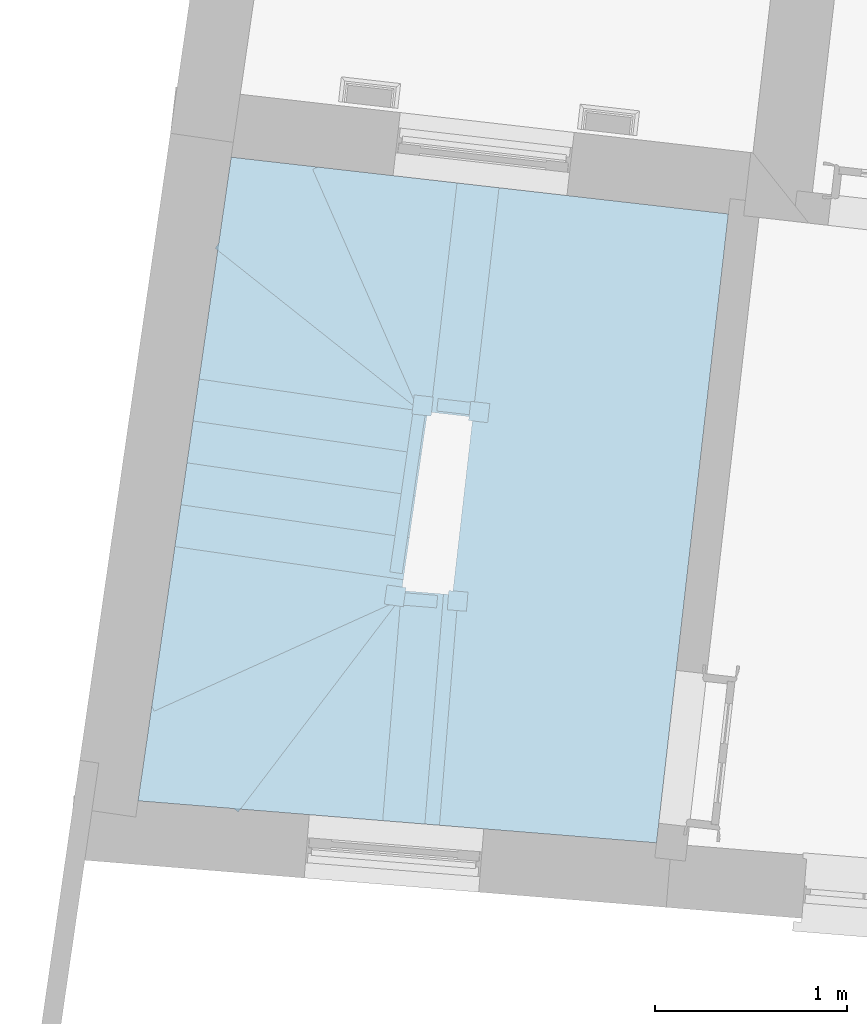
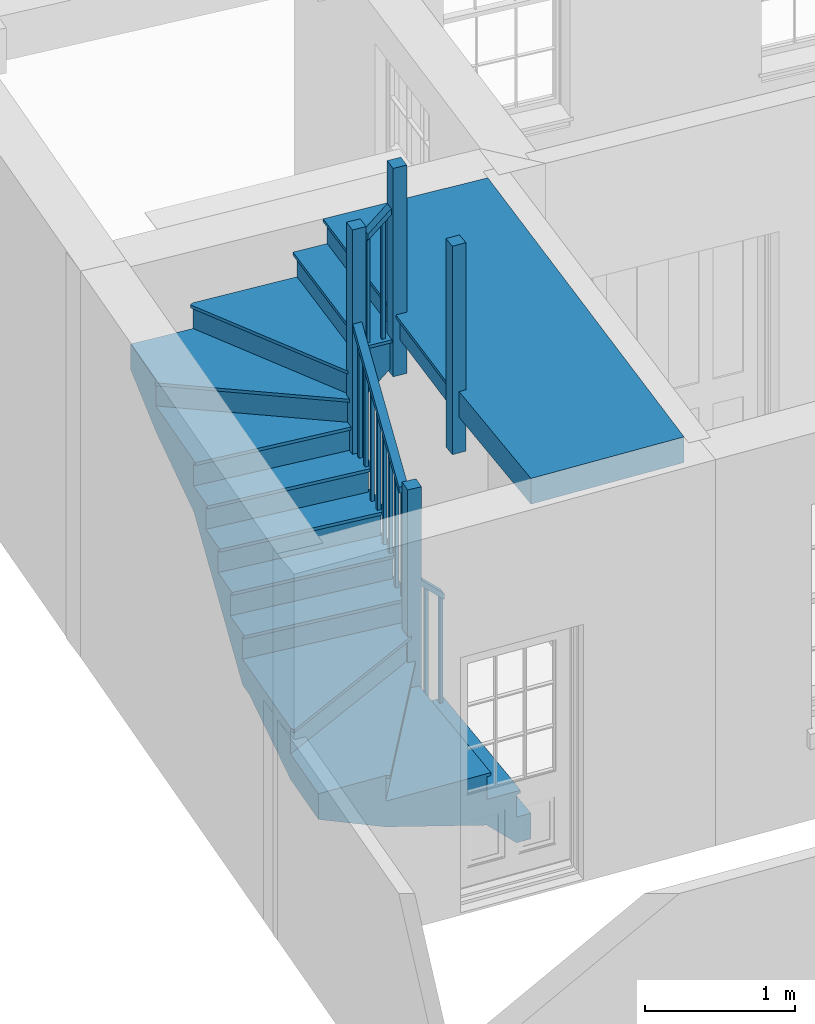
# One storey, part 8 of 8: 1 stair.
"""IFC4 building model written with IfcOpenShell, lengths in metres."""

from ifc_helpers import new_model, si_unit, frame, origin, origin_with_axes, place, context, subcontext, project, spatial, faceted_brep, element, save


model = new_model("IFC4")

# Units and contexts
model_context = context("Model", 3, world=origin_with_axes())
body_context = subcontext(model_context, "Body", "Model", "MODEL_VIEW")
ifc_project = project(units=[si_unit("PLANEANGLEUNIT", "RADIAN"), si_unit("MASSUNIT", "GRAM", prefix="KILO"), si_unit("FORCEUNIT", "NEWTON", prefix="KILO"), si_unit("LENGTHUNIT", "METRE"), si_unit("AREAUNIT", "SQUARE_METRE"), si_unit("VOLUMEUNIT", "CUBIC_METRE")], contexts=[model_context, model_context])

# Sites, building, storey
site_1_placement = place(None, origin_with_axes())
site_1 = spatial("IfcSite", under=ifc_project, at=site_1_placement, Name="Tamar")
site_2_placement = place(site_1_placement, origin_with_axes())
site_2 = spatial("IfcSite", under=site_1, at=site_2_placement, Name="Site plot-31", CompositionType="ELEMENT")
building_placement = place(None, origin_with_axes())
building = spatial("IfcBuilding", under=site_2, at=building_placement, Name="Building plot-31", CompositionType="ELEMENT")
storey_placement = place(None, frame((0.0, 0.0, 25.5), z_axis=(0.0, 0.0, 1.0), x_axis=(1.0, 0.0, 0.0)))
storey = spatial("IfcBuildingStorey", under=building, at=storey_placement, Name="plot-31 0", CompositionType="ELEMENT", Elevation=25.5)

# Stair
stair_placement = place(None, origin())
element("IfcStair", 1, at=stair_placement, inside=storey, Name="Stair", PredefinedType="NOTDEFINED", context=body_context, shape_type="Brep", body=[
    faceted_brep([(294.32439, 259.979623, 28.44), (294.457181, 261.142063, 28.44), (294.238602, 261.167032, 28.44), (294.105811, 260.004593, 28.44), (294.105811, 260.004593, 28.02), (294.238602, 261.167032, 28.02), (294.457181, 261.142063, 28.23), (294.32439, 259.979623, 28.23)], [[[0, 1, 2, 3]], [[4, 5, 6, 7]], [[7, 6, 1, 0]], [[1, 6, 5, 2]], [[5, 4, 3, 2]], [[3, 4, 7, 0]]]),
    faceted_brep([(294.238602, 261.167032, 28.415), (294.208796, 261.170437, 28.415), (294.238602, 261.167032, 28.44), (294.486987, 261.138658, 28.415), (294.457181, 261.142063, 28.415), (294.457181, 261.142063, 28.44), (294.208796, 261.170437, 28.44), (294.486987, 261.138658, 28.44), (294.0726, 259.978191, 28.44), (294.105811, 260.004593, 28.44), (294.105811, 260.004593, 28.415), (294.0726, 259.978191, 28.415), (294.350791, 259.946412, 28.44), (294.32439, 259.979623, 28.44), (294.32439, 259.979623, 28.415), (294.350791, 259.946412, 28.415)], [[[0, 1, 2]], [[3, 4, 5]], [[1, 6, 2]], [[7, 3, 5]], [[2, 6, 8, 9]], [[0, 2, 9, 10]], [[1, 0, 10, 11]], [[6, 1, 11, 8]], [[9, 8, 12, 13]], [[10, 9, 13, 14]], [[11, 10, 14, 15]], [[8, 11, 15, 12]], [[13, 12, 7, 5]], [[14, 13, 5, 4]], [[15, 14, 4, 3]], [[12, 15, 3, 7]]]),
    faceted_brep([(294.105811, 260.004593, 29.34), (294.13065, 260.001755, 29.34), (294.133487, 260.026594, 29.34), (294.108649, 260.029431, 29.34), (294.108649, 260.029431, 28.44), (294.133487, 260.026594, 28.44), (294.13065, 260.001755, 28.44), (294.105811, 260.004593, 28.44)], [[[0, 1, 2, 3]], [[4, 5, 6, 7]], [[7, 6, 1, 0]], [[6, 5, 2, 1]], [[5, 4, 3, 2]], [[4, 7, 0, 3]]]),
    faceted_brep([(294.215101, 259.992108, 29.445), (294.239939, 259.989271, 29.445), (294.242776, 260.014109, 29.445), (294.217938, 260.016946, 29.445), (294.217938, 260.016946, 28.44), (294.242776, 260.014109, 28.44), (294.239939, 259.989271, 28.44), (294.215101, 259.992108, 28.44)], [[[0, 1, 2, 3]], [[4, 5, 6, 7]], [[7, 6, 1, 0]], [[6, 5, 2, 1]], [[5, 4, 3, 2]], [[4, 7, 0, 3]]]),
    faceted_brep([(294.110919, 260.049302, 29.29), (294.103541, 259.984722, 29.29), (294.103541, 259.984722, 29.34), (294.110919, 260.049302, 29.34), (294.32212, 259.959753, 29.5), (294.329497, 260.024333, 29.5), (294.329497, 260.024333, 29.55), (294.32212, 259.959753, 29.55)], [[[0, 1, 2, 3]], [[4, 5, 6, 7]], [[0, 5, 4, 1]], [[3, 2, 7, 6]], [[0, 3, 6, 5]], [[2, 1, 4, 7]]]),
    faceted_brep([(294.105811, 260.004593, 28.23), (294.238602, 261.167032, 28.23), (294.163074, 261.17566, 28.23), (294.030283, 260.01322, 28.23), (294.030283, 260.01322, 28.02), (294.163074, 261.17566, 28.02), (294.238602, 261.167032, 28.02), (294.105811, 260.004593, 28.02)], [[[0, 1, 2, 3]], [[4, 5, 6, 7]], [[7, 6, 1, 0]], [[6, 5, 2, 1]], [[5, 4, 3, 2]], [[4, 7, 0, 3]]]),
    faceted_brep([(294.030283, 260.01322, 28.205), (294.026879, 259.983414, 28.205), (294.030283, 260.01322, 28.23), (294.102406, 259.974786, 28.205), (294.105811, 260.004593, 28.205), (294.105811, 260.004593, 28.23), (294.026879, 259.983414, 28.23), (294.102406, 259.974786, 28.23)], [[[0, 1, 2]], [[3, 4, 5]], [[1, 6, 2]], [[7, 3, 5]], [[2, 6, 7, 5]], [[0, 2, 5, 4]], [[1, 0, 4, 3]], [[6, 1, 3, 7]]]),
    faceted_brep([(293.974932, 259.969218, 29.43), (294.074286, 259.957869, 29.43), (294.085635, 260.057223, 29.43), (293.986281, 260.068572, 29.43), (293.986281, 260.068572, 28.23), (294.085635, 260.057223, 28.23), (294.074286, 259.957869, 28.23), (293.974932, 259.969218, 28.23)], [[[0, 1, 2, 3]], [[4, 5, 6, 7]], [[7, 6, 1, 0]], [[6, 5, 2, 1]], [[5, 4, 3, 2]], [[4, 7, 0, 3]]]),
    faceted_brep([(294.163074, 261.17566, 28.23), (293.486139, 261.25299, 28.23), (294.030283, 260.01322, 28.23), (294.030283, 260.01322, 27.81), (293.486139, 261.25299, 27.81), (294.163074, 261.17566, 28.02)], [[[0, 1, 2]], [[3, 4, 5]], [[0, 5, 4, 1]], [[4, 3, 2, 1]], [[2, 3, 5, 0]]]),
    faceted_brep([(293.486139, 261.25299, 28.205), (293.458669, 261.240933, 28.205), (293.486139, 261.25299, 28.23), (294.002813, 260.001163, 28.205), (294.030283, 260.01322, 28.205), (294.030283, 260.01322, 28.23), (293.458669, 261.240933, 28.23), (294.002813, 260.001163, 28.23)], [[[0, 1, 2]], [[3, 4, 5]], [[1, 6, 2]], [[7, 3, 5]], [[2, 6, 7, 5]], [[0, 2, 5, 4]], [[1, 0, 4, 3]], [[6, 1, 3, 7]]]),
    faceted_brep([(293.486139, 261.25299, 28.02), (293.034849, 261.304543, 28.02), (292.969841, 260.854994, 28.02), (294.030283, 260.01322, 28.02), (294.030283, 260.01322, 27.6), (292.969841, 260.854994, 27.6), (293.034849, 261.304543, 27.81), (293.486139, 261.25299, 27.81)], [[[0, 1, 2, 3]], [[4, 5, 6, 7]], [[7, 6, 1, 0]], [[1, 6, 5, 2]], [[5, 4, 3, 2]], [[3, 4, 7, 0]]]),
    faceted_brep([(292.951189, 260.831497, 27.995), (292.951189, 260.831497, 28.02), (292.969841, 260.854994, 27.995), (294.011632, 259.989723, 28.02), (294.011632, 259.989723, 27.995), (294.030283, 260.01322, 27.995), (292.969841, 260.854994, 28.02), (294.030283, 260.01322, 28.02)], [[[0, 1, 2]], [[3, 4, 5]], [[2, 1, 6]], [[3, 5, 7]], [[6, 1, 3, 7]], [[2, 6, 7, 5]], [[0, 2, 5, 4]], [[1, 0, 4, 3]]]),
    faceted_brep([(292.969841, 260.854994, 27.81), (292.872328, 260.18067, 27.81), (294.030283, 260.01322, 27.81), (294.030283, 260.01322, 27.39), (292.872328, 260.18067, 27.39), (292.969841, 260.854994, 27.6)], [[[0, 1, 2]], [[3, 4, 5]], [[0, 5, 4, 1]], [[4, 3, 2, 1]], [[2, 3, 5, 0]]]),
    faceted_brep([(292.868034, 260.150979, 27.785), (292.868034, 260.150979, 27.81), (292.872328, 260.18067, 27.785), (294.02599, 259.983529, 27.81), (294.02599, 259.983529, 27.785), (294.030283, 260.01322, 27.785), (292.872328, 260.18067, 27.81), (294.030283, 260.01322, 27.81)], [[[0, 1, 2]], [[3, 4, 5]], [[2, 1, 6]], [[3, 5, 7]], [[6, 1, 3, 7]], [[2, 6, 7, 5]], [[0, 2, 5, 4]], [[1, 0, 4, 3]]]),
    faceted_brep([(293.974932, 259.969218, 28.23), (294.074286, 259.957869, 28.23), (294.085635, 260.057223, 28.23), (293.986281, 260.068572, 28.23), (293.986281, 260.068572, 27.31), (294.085635, 260.057223, 27.31), (294.074286, 259.957869, 27.31), (293.974932, 259.969218, 27.31)], [[[0, 1, 2, 3]], [[4, 5, 6, 7]], [[7, 6, 1, 0]], [[6, 5, 2, 1]], [[5, 4, 3, 2]], [[4, 7, 0, 3]]]),
    faceted_brep([(294.030283, 260.01322, 27.6), (292.872328, 260.18067, 27.6), (292.840842, 259.962935, 27.6), (293.998797, 259.795485, 27.6), (293.998797, 259.795485, 27.18), (292.840842, 259.962935, 27.18), (292.872328, 260.18067, 27.39), (294.030283, 260.01322, 27.39)], [[[0, 1, 2, 3]], [[4, 5, 6, 7]], [[7, 6, 1, 0]], [[1, 6, 5, 2]], [[5, 4, 3, 2]], [[3, 4, 7, 0]]]),
    faceted_brep([(292.836548, 259.933244, 27.575), (292.836548, 259.933244, 27.6), (292.840842, 259.962935, 27.575), (292.876622, 260.210361, 27.6), (292.876622, 260.210361, 27.575), (292.872328, 260.18067, 27.575), (292.840842, 259.962935, 27.6), (292.872328, 260.18067, 27.6), (294.024195, 259.761501, 27.6), (293.998797, 259.795485, 27.6), (293.998797, 259.795485, 27.575), (294.024195, 259.761501, 27.575), (294.064268, 260.038618, 27.6), (294.030283, 260.01322, 27.6), (294.030283, 260.01322, 27.575), (294.064268, 260.038618, 27.575)], [[[0, 1, 2]], [[3, 4, 5]], [[2, 1, 6]], [[3, 5, 7]], [[6, 1, 8, 9]], [[2, 6, 9, 10]], [[0, 2, 10, 11]], [[1, 0, 11, 8]], [[9, 8, 12, 13]], [[10, 9, 13, 14]], [[11, 10, 14, 15]], [[8, 11, 15, 12]], [[13, 12, 3, 7]], [[14, 13, 7, 5]], [[15, 14, 5, 4]], [[12, 15, 4, 3]]]),
    faceted_brep([(293.998797, 259.795485, 28.5), (294.002375, 259.820228, 28.5), (293.977633, 259.823806, 28.5), (293.974055, 259.799063, 28.5), (293.974055, 259.799063, 27.6), (293.977633, 259.823806, 27.6), (294.002375, 259.820228, 27.6), (293.998797, 259.795485, 27.6)], [[[0, 1, 2, 3]], [[4, 5, 6, 7]], [[7, 6, 1, 0]], [[6, 5, 2, 1]], [[5, 4, 3, 2]], [[4, 7, 0, 3]]]),
    faceted_brep([(294.01454, 259.904353, 28.605), (294.018118, 259.929095, 28.605), (293.993376, 259.932673, 28.605), (293.989798, 259.907931, 28.605), (293.989798, 259.907931, 27.6), (293.993376, 259.932673, 27.6), (294.018118, 259.929095, 27.6), (294.01454, 259.904353, 27.6)], [[[0, 1, 2, 3]], [[4, 5, 6, 7]], [[7, 6, 1, 0]], [[6, 5, 2, 1]], [[5, 4, 3, 2]], [[4, 7, 0, 3]]]),
    faceted_brep([(293.95426, 259.801926, 28.45), (294.018591, 259.792623, 28.45), (294.018591, 259.792623, 28.5), (293.95426, 259.801926, 28.5), (294.050078, 260.010358, 28.66), (293.985747, 260.019661, 28.66), (293.985747, 260.019661, 28.71), (294.050078, 260.010358, 28.71)], [[[0, 1, 2, 3]], [[4, 5, 6, 7]], [[0, 5, 4, 1]], [[3, 2, 7, 6]], [[0, 3, 6, 5]], [[2, 1, 4, 7]]]),
    faceted_brep([(293.998797, 259.795485, 27.39), (292.840842, 259.962935, 27.39), (292.809356, 259.745199, 27.39), (293.967311, 259.57775, 27.39), (293.967311, 259.57775, 26.97), (292.809356, 259.745199, 26.97), (292.840842, 259.962935, 27.18), (293.998797, 259.795485, 27.18)], [[[0, 1, 2, 3]], [[4, 5, 6, 7]], [[7, 6, 1, 0]], [[1, 6, 5, 2]], [[5, 4, 3, 2]], [[3, 4, 7, 0]]]),
    faceted_brep([(292.805062, 259.715508, 27.365), (292.805062, 259.715508, 27.39), (292.809356, 259.745199, 27.365), (292.845135, 259.992626, 27.39), (292.845135, 259.992626, 27.365), (292.840842, 259.962935, 27.365), (292.809356, 259.745199, 27.39), (292.840842, 259.962935, 27.39), (293.992709, 259.543765, 27.39), (293.967311, 259.57775, 27.39), (293.967311, 259.57775, 27.365), (293.992709, 259.543765, 27.365), (294.032782, 259.820883, 27.39), (293.998797, 259.795485, 27.39), (293.998797, 259.795485, 27.365), (294.032782, 259.820883, 27.365)], [[[0, 1, 2]], [[3, 4, 5]], [[2, 1, 6]], [[3, 5, 7]], [[6, 1, 8, 9]], [[2, 6, 9, 10]], [[0, 2, 10, 11]], [[1, 0, 11, 8]], [[9, 8, 12, 13]], [[10, 9, 13, 14]], [[11, 10, 14, 15]], [[8, 11, 15, 12]], [[13, 12, 3, 7]], [[14, 13, 7, 5]], [[15, 14, 5, 4]], [[12, 15, 4, 3]]]),
    faceted_brep([(293.967311, 259.57775, 28.29), (293.970889, 259.602493, 28.29), (293.946146, 259.606071, 28.29), (293.942568, 259.581328, 28.29), (293.942568, 259.581328, 27.39), (293.946146, 259.606071, 27.39), (293.970889, 259.602493, 27.39), (293.967311, 259.57775, 27.39)], [[[0, 1, 2, 3]], [[4, 5, 6, 7]], [[7, 6, 1, 0]], [[6, 5, 2, 1]], [[5, 4, 3, 2]], [[4, 7, 0, 3]]]),
    faceted_brep([(293.983054, 259.686618, 28.395), (293.986632, 259.71136, 28.395), (293.961889, 259.714938, 28.395), (293.958311, 259.690196, 28.395), (293.958311, 259.690196, 27.39), (293.961889, 259.714938, 27.39), (293.986632, 259.71136, 27.39), (293.983054, 259.686618, 27.39)], [[[0, 1, 2, 3]], [[4, 5, 6, 7]], [[7, 6, 1, 0]], [[6, 5, 2, 1]], [[5, 4, 3, 2]], [[4, 7, 0, 3]]]),
    faceted_brep([(293.922774, 259.58419, 28.24), (293.987105, 259.574888, 28.24), (293.987105, 259.574888, 28.29), (293.922774, 259.58419, 28.29), (294.018591, 259.792623, 28.45), (293.95426, 259.801926, 28.45), (293.95426, 259.801926, 28.5), (294.018591, 259.792623, 28.5)], [[[0, 1, 2, 3]], [[4, 5, 6, 7]], [[0, 5, 4, 1]], [[3, 2, 7, 6]], [[0, 3, 6, 5]], [[2, 1, 4, 7]]]),
    faceted_brep([(293.967311, 259.57775, 27.18), (292.809356, 259.745199, 27.18), (292.777869, 259.527464, 27.18), (293.935825, 259.360015, 27.18), (293.935825, 259.360015, 26.76), (292.777869, 259.527464, 26.76), (292.809356, 259.745199, 26.97), (293.967311, 259.57775, 26.97)], [[[0, 1, 2, 3]], [[4, 5, 6, 7]], [[7, 6, 1, 0]], [[1, 6, 5, 2]], [[5, 4, 3, 2]], [[3, 4, 7, 0]]]),
    faceted_brep([(292.777869, 259.527464, 27.155), (292.773576, 259.497773, 27.155), (292.777869, 259.527464, 27.18), (292.813649, 259.774891, 27.155), (292.809356, 259.745199, 27.155), (292.809356, 259.745199, 27.18), (292.773576, 259.497773, 27.18), (292.813649, 259.774891, 27.18), (293.961222, 259.32603, 27.18), (293.935825, 259.360015, 27.18), (293.935825, 259.360015, 27.155), (293.961222, 259.32603, 27.155), (294.001296, 259.603148, 27.18), (293.967311, 259.57775, 27.18), (293.967311, 259.57775, 27.155), (294.001296, 259.603148, 27.155)], [[[0, 1, 2]], [[3, 4, 5]], [[1, 6, 2]], [[7, 3, 5]], [[2, 6, 8, 9]], [[0, 2, 9, 10]], [[1, 0, 10, 11]], [[6, 1, 11, 8]], [[9, 8, 12, 13]], [[10, 9, 13, 14]], [[11, 10, 14, 15]], [[8, 11, 15, 12]], [[13, 12, 7, 5]], [[14, 13, 5, 4]], [[15, 14, 4, 3]], [[12, 15, 3, 7]]]),
    faceted_brep([(293.935825, 259.360015, 28.08), (293.939403, 259.384757, 28.08), (293.91466, 259.388335, 28.08), (293.911082, 259.363593, 28.08), (293.911082, 259.363593, 27.18), (293.91466, 259.388335, 27.18), (293.939403, 259.384757, 27.18), (293.935825, 259.360015, 27.18)], [[[0, 1, 2, 3]], [[4, 5, 6, 7]], [[7, 6, 1, 0]], [[6, 5, 2, 1]], [[5, 4, 3, 2]], [[4, 7, 0, 3]]]),
    faceted_brep([(293.951568, 259.468882, 28.185), (293.955146, 259.493625, 28.185), (293.930403, 259.497203, 28.185), (293.926825, 259.47246, 28.185), (293.926825, 259.47246, 27.18), (293.930403, 259.497203, 27.18), (293.955146, 259.493625, 27.18), (293.951568, 259.468882, 27.18)], [[[0, 1, 2, 3]], [[4, 5, 6, 7]], [[7, 6, 1, 0]], [[6, 5, 2, 1]], [[5, 4, 3, 2]], [[4, 7, 0, 3]]]),
    faceted_brep([(293.891288, 259.366455, 28.03), (293.955619, 259.357152, 28.03), (293.955619, 259.357152, 28.08), (293.891288, 259.366455, 28.08), (293.987105, 259.574888, 28.24), (293.922774, 259.58419, 28.24), (293.922774, 259.58419, 28.29), (293.987105, 259.574888, 28.29)], [[[0, 1, 2, 3]], [[4, 5, 6, 7]], [[0, 5, 4, 1]], [[3, 2, 7, 6]], [[0, 3, 6, 5]], [[2, 1, 4, 7]]]),
    faceted_brep([(293.935825, 259.360015, 26.97), (292.777869, 259.527464, 26.97), (292.746383, 259.309729, 26.97), (293.904339, 259.14228, 26.97), (293.904339, 259.14228, 26.55), (292.746383, 259.309729, 26.55), (292.777869, 259.527464, 26.76), (293.935825, 259.360015, 26.76)], [[[0, 1, 2, 3]], [[4, 5, 6, 7]], [[7, 6, 1, 0]], [[1, 6, 5, 2]], [[5, 4, 3, 2]], [[3, 4, 7, 0]]]),
    faceted_brep([(292.746383, 259.309729, 26.945), (292.74209, 259.280038, 26.945), (292.746383, 259.309729, 26.97), (292.782163, 259.557155, 26.945), (292.777869, 259.527464, 26.945), (292.777869, 259.527464, 26.97), (292.74209, 259.280038, 26.97), (292.782163, 259.557155, 26.97), (293.929736, 259.108295, 26.97), (293.904339, 259.14228, 26.97), (293.904339, 259.14228, 26.945), (293.929736, 259.108295, 26.945), (293.96981, 259.385412, 26.97), (293.935825, 259.360015, 26.97), (293.935825, 259.360015, 26.945), (293.96981, 259.385412, 26.945)], [[[0, 1, 2]], [[3, 4, 5]], [[1, 6, 2]], [[7, 3, 5]], [[2, 6, 8, 9]], [[0, 2, 9, 10]], [[1, 0, 10, 11]], [[6, 1, 11, 8]], [[9, 8, 12, 13]], [[10, 9, 13, 14]], [[11, 10, 14, 15]], [[8, 11, 15, 12]], [[13, 12, 7, 5]], [[14, 13, 5, 4]], [[15, 14, 4, 3]], [[12, 15, 3, 7]]]),
    faceted_brep([(293.904339, 259.14228, 27.87), (293.907917, 259.167022, 27.87), (293.883174, 259.1706, 27.87), (293.879596, 259.145858, 27.87), (293.879596, 259.145858, 26.97), (293.883174, 259.1706, 26.97), (293.907917, 259.167022, 26.97), (293.904339, 259.14228, 26.97)], [[[0, 1, 2, 3]], [[4, 5, 6, 7]], [[7, 6, 1, 0]], [[6, 5, 2, 1]], [[5, 4, 3, 2]], [[4, 7, 0, 3]]]),
    faceted_brep([(293.920082, 259.251147, 27.975), (293.92366, 259.27589, 27.975), (293.898917, 259.279468, 27.975), (293.895339, 259.254725, 27.975), (293.895339, 259.254725, 26.97), (293.898917, 259.279468, 26.97), (293.92366, 259.27589, 26.97), (293.920082, 259.251147, 26.97)], [[[0, 1, 2, 3]], [[4, 5, 6, 7]], [[7, 6, 1, 0]], [[6, 5, 2, 1]], [[5, 4, 3, 2]], [[4, 7, 0, 3]]]),
    faceted_brep([(293.859802, 259.14872, 27.82), (293.924133, 259.139417, 27.82), (293.924133, 259.139417, 27.87), (293.859802, 259.14872, 27.87), (293.955619, 259.357152, 28.03), (293.891288, 259.366455, 28.03), (293.891288, 259.366455, 28.08), (293.955619, 259.357152, 28.08)], [[[0, 1, 2, 3]], [[4, 5, 6, 7]], [[0, 5, 4, 1]], [[3, 2, 7, 6]], [[0, 3, 6, 5]], [[2, 1, 4, 7]]]),
    faceted_brep([(293.904339, 259.14228, 26.76), (292.746383, 259.309729, 26.76), (292.729265, 259.191353, 26.76), (293.887221, 259.023904, 26.76), (293.887221, 259.023904, 26.55), (292.729265, 259.191353, 26.55), (292.746383, 259.309729, 26.55), (293.904339, 259.14228, 26.55)], [[[0, 1, 2, 3]], [[4, 5, 6, 7]], [[7, 6, 1, 0]], [[6, 5, 2, 1]], [[5, 4, 3, 2]], [[4, 7, 0, 3]]]),
    faceted_brep([(293.887221, 259.023904, 26.735), (293.916912, 259.01961, 26.735), (293.887221, 259.023904, 26.76), (293.93403, 259.137986, 26.735), (293.904339, 259.14228, 26.735), (293.904339, 259.14228, 26.76), (293.916912, 259.01961, 26.76), (293.93403, 259.137986, 26.76)], [[[0, 1, 2]], [[3, 4, 5]], [[1, 6, 2]], [[7, 3, 5]], [[2, 6, 7, 5]], [[0, 2, 5, 4]], [[1, 0, 4, 3]], [[6, 1, 3, 7]]]),
    faceted_brep([(293.92955, 258.967263, 27.96), (293.943862, 259.066233, 27.96), (293.844891, 259.080545, 27.96), (293.830579, 258.981575, 27.96), (293.830579, 258.981575, 26.76), (293.844891, 259.080545, 26.76), (293.943862, 259.066233, 26.76), (293.92955, 258.967263, 26.76)], [[[0, 1, 2, 3]], [[4, 5, 6, 7]], [[7, 6, 1, 0]], [[6, 5, 2, 1]], [[5, 4, 3, 2]], [[4, 7, 0, 3]]]),
    faceted_brep([(292.729265, 259.191353, 26.76), (292.622286, 258.451564, 26.76), (293.887221, 259.023904, 26.76), (293.887221, 259.023904, 26.34), (292.622286, 258.451564, 26.34), (292.729265, 259.191353, 26.55)], [[[0, 1, 2]], [[3, 4, 5]], [[0, 5, 4, 1]], [[4, 3, 2, 1]], [[2, 3, 5, 0]]]),
    faceted_brep([(292.622286, 258.451564, 26.735), (292.634653, 258.424232, 26.735), (292.622286, 258.451564, 26.76), (293.899587, 258.996572, 26.735), (293.887221, 259.023904, 26.735), (293.887221, 259.023904, 26.76), (292.634653, 258.424232, 26.76), (293.899587, 258.996572, 26.76)], [[[0, 1, 2]], [[3, 4, 5]], [[1, 6, 2]], [[7, 3, 5]], [[2, 6, 7, 5]], [[0, 2, 5, 4]], [[1, 0, 4, 3]], [[6, 1, 3, 7]]]),
    faceted_brep([(292.622286, 258.451564, 26.55), (292.550966, 257.958371, 26.55), (293.04766, 257.918114, 26.55), (293.887221, 259.023904, 26.55), (293.887221, 259.023904, 26.13), (293.04766, 257.918114, 26.13), (292.550966, 257.958371, 26.34), (292.622286, 258.451564, 26.34)], [[[0, 1, 2, 3]], [[4, 5, 6, 7]], [[7, 6, 1, 0]], [[1, 6, 5, 2]], [[5, 4, 3, 2]], [[3, 4, 7, 0]]]),
    faceted_brep([(293.04766, 257.918114, 26.525), (293.071554, 257.899973, 26.525), (293.04766, 257.918114, 26.55), (293.911114, 259.005763, 26.525), (293.887221, 259.023904, 26.525), (293.887221, 259.023904, 26.55), (293.071554, 257.899973, 26.55), (293.911114, 259.005763, 26.55)], [[[0, 1, 2]], [[3, 4, 5]], [[1, 6, 2]], [[7, 3, 5]], [[2, 6, 7, 5]], [[0, 2, 5, 4]], [[1, 0, 4, 3]], [[6, 1, 3, 7]]]),
    faceted_brep([(293.04766, 257.918114, 26.34), (293.792702, 257.857728, 26.34), (293.887221, 259.023904, 26.34), (293.887221, 259.023904, 25.92), (293.792702, 257.857728, 25.92), (293.04766, 257.918114, 26.13)], [[[0, 1, 2]], [[3, 4, 5]], [[0, 5, 4, 1]], [[4, 3, 2, 1]], [[2, 3, 5, 0]]]),
    faceted_brep([(293.822604, 257.855305, 26.315), (293.822604, 257.855305, 26.34), (293.792702, 257.857728, 26.315), (293.917122, 259.02148, 26.34), (293.917122, 259.02148, 26.315), (293.887221, 259.023904, 26.315), (293.792702, 257.857728, 26.34), (293.887221, 259.023904, 26.34)], [[[0, 1, 2]], [[3, 4, 5]], [[2, 1, 6]], [[3, 5, 7]], [[6, 1, 3, 7]], [[2, 6, 7, 5]], [[0, 2, 5, 4]], [[1, 0, 4, 3]]]),
    faceted_brep([(293.92955, 258.967263, 26.76), (293.943862, 259.066233, 26.76), (293.844891, 259.080545, 26.76), (293.830579, 258.981575, 26.76), (293.830579, 258.981575, 25.84), (293.844891, 259.080545, 25.84), (293.943862, 259.066233, 25.84), (293.92955, 258.967263, 25.84)], [[[0, 1, 2, 3]], [[4, 5, 6, 7]], [[7, 6, 1, 0]], [[6, 5, 2, 1]], [[5, 4, 3, 2]], [[4, 7, 0, 3]]]),
    faceted_brep([(293.887221, 259.023904, 26.13), (293.792702, 257.857728, 26.13), (294.011983, 257.839955, 26.13), (294.106501, 259.006131, 26.13), (294.106501, 259.006131, 25.71), (294.011983, 257.839955, 25.71), (293.792702, 257.857728, 25.92), (293.887221, 259.023904, 25.92)], [[[0, 1, 2, 3]], [[4, 5, 6, 7]], [[7, 6, 1, 0]], [[1, 6, 5, 2]], [[5, 4, 3, 2]], [[3, 4, 7, 0]]]),
    faceted_brep([(294.011983, 257.839955, 26.105), (294.041885, 257.837532, 26.105), (294.011983, 257.839955, 26.13), (293.7628, 257.860152, 26.105), (293.792702, 257.857728, 26.105), (293.792702, 257.857728, 26.13), (294.041885, 257.837532, 26.13), (293.7628, 257.860152, 26.13), (294.138827, 259.03361, 26.13), (294.106501, 259.006131, 26.13), (294.106501, 259.006131, 26.105), (294.138827, 259.03361, 26.105), (293.859742, 259.05623, 26.13), (293.887221, 259.023904, 26.13), (293.887221, 259.023904, 26.105), (293.859742, 259.05623, 26.105)], [[[0, 1, 2]], [[3, 4, 5]], [[1, 6, 2]], [[7, 3, 5]], [[2, 6, 8, 9]], [[0, 2, 9, 10]], [[1, 0, 10, 11]], [[6, 1, 11, 8]], [[9, 8, 12, 13]], [[10, 9, 13, 14]], [[11, 10, 14, 15]], [[8, 11, 15, 12]], [[13, 12, 7, 5]], [[14, 13, 5, 4]], [[15, 14, 4, 3]], [[12, 15, 3, 7]]]),
    faceted_brep([(294.106501, 259.006131, 27.03), (294.081583, 259.008151, 27.03), (294.079564, 258.983233, 27.03), (294.104482, 258.981213, 27.03), (294.104482, 258.981213, 26.13), (294.079564, 258.983233, 26.13), (294.081583, 259.008151, 26.13), (294.106501, 259.006131, 26.13)], [[[0, 1, 2, 3]], [[4, 5, 6, 7]], [[7, 6, 1, 0]], [[6, 5, 2, 1]], [[5, 4, 3, 2]], [[4, 7, 0, 3]]]),
    faceted_brep([(293.996861, 259.015018, 27.135), (293.971943, 259.017037, 27.135), (293.969923, 258.992119, 27.135), (293.994841, 258.990099, 27.135), (293.994841, 258.990099, 26.13), (293.969923, 258.992119, 26.13), (293.971943, 259.017037, 26.13), (293.996861, 259.015018, 26.13)], [[[0, 1, 2, 3]], [[4, 5, 6, 7]], [[7, 6, 1, 0]], [[6, 5, 2, 1]], [[5, 4, 3, 2]], [[4, 7, 0, 3]]]),
    faceted_brep([(294.102866, 258.961278, 26.98), (294.108117, 259.026066, 26.98), (294.108117, 259.026066, 27.03), (294.102866, 258.961278, 27.03), (293.888836, 259.043839, 27.19), (293.883585, 258.979051, 27.19), (293.883585, 258.979051, 27.24), (293.888836, 259.043839, 27.24)], [[[0, 1, 2, 3]], [[4, 5, 6, 7]], [[0, 5, 4, 1]], [[3, 2, 7, 6]], [[0, 3, 6, 5]], [[2, 1, 4, 7]]]),
    faceted_brep([(294.106501, 259.006131, 25.92), (294.011983, 257.839955, 25.92), (294.117686, 257.831388, 25.92), (294.212205, 258.997564, 25.92), (294.212205, 258.997564, 25.71), (294.117686, 257.831388, 25.71), (294.011983, 257.839955, 25.71), (294.106501, 259.006131, 25.71)], [[[0, 1, 2, 3]], [[4, 5, 6, 7]], [[7, 6, 1, 0]], [[6, 5, 2, 1]], [[5, 4, 3, 2]], [[4, 7, 0, 3]]]),
    faceted_brep([(294.212205, 258.997564, 25.895), (294.214628, 259.027466, 25.895), (294.212205, 258.997564, 25.92), (294.108925, 259.036033, 25.895), (294.106501, 259.006131, 25.895), (294.106501, 259.006131, 25.92), (294.214628, 259.027466, 25.92), (294.108925, 259.036033, 25.92)], [[[0, 1, 2]], [[3, 4, 5]], [[1, 6, 2]], [[7, 3, 5]], [[2, 6, 7, 5]], [[0, 2, 5, 4]], [[1, 0, 4, 3]], [[6, 1, 3, 7]]]),
    faceted_brep([(294.26608, 259.043361, 29.85), (294.166407, 259.05144, 29.85), (294.158329, 258.951767, 29.85), (294.258002, 258.943688, 29.85), (294.258002, 258.943688, 28.65), (294.158329, 258.951767, 28.65), (294.166407, 259.05144, 28.65), (294.26608, 259.043361, 28.65)], [[[0, 1, 2, 3]], [[4, 5, 6, 7]], [[7, 6, 1, 0]], [[6, 5, 2, 1]], [[5, 4, 3, 2]], [[4, 7, 0, 3]]]),
    faceted_brep([(294.212205, 258.997564, 28.65), (294.117686, 257.831388, 28.65), (295.246148, 257.739926, 28.65), (295.374645, 258.864773, 28.65), (295.374645, 258.864773, 28.44), (295.246148, 257.739926, 28.44), (294.117686, 257.831388, 28.44), (294.212205, 258.997564, 28.44)], [[[0, 1, 2, 3]], [[4, 5, 6, 7]], [[7, 6, 1, 0]], [[6, 5, 2, 1]], [[5, 4, 3, 2]], [[4, 7, 0, 3]]]),
    faceted_brep([(295.378049, 258.894579, 28.625), (295.378049, 258.894579, 28.65), (295.374645, 258.864773, 28.625), (294.215609, 259.02737, 28.65), (294.215609, 259.02737, 28.625), (294.212205, 258.997564, 28.625), (295.374645, 258.864773, 28.65), (294.212205, 258.997564, 28.65)], [[[0, 1, 2]], [[3, 4, 5]], [[2, 1, 6]], [[3, 5, 7]], [[6, 1, 3, 7]], [[2, 6, 7, 5]], [[0, 2, 5, 4]], [[1, 0, 4, 3]]]),
    faceted_brep([(294.26608, 259.043361, 28.65), (294.166407, 259.05144, 28.65), (294.158329, 258.951767, 28.65), (294.258002, 258.943688, 28.65), (294.258002, 258.943688, 28.15), (294.158329, 258.951767, 28.15), (294.166407, 259.05144, 28.15), (294.26608, 259.043361, 28.15)], [[[0, 1, 2, 3]], [[4, 5, 6, 7]], [[7, 6, 1, 0]], [[6, 5, 2, 1]], [[5, 4, 3, 2]], [[4, 7, 0, 3]]]),
    faceted_brep([(294.212205, 258.997564, 28.65), (295.374645, 258.864773, 28.65), (295.48683, 259.846832, 28.65), (294.32439, 259.979623, 28.65), (294.32439, 259.979623, 28.44), (295.48683, 259.846832, 28.44), (295.374645, 258.864773, 28.44), (294.212205, 258.997564, 28.44)], [[[0, 1, 2, 3]], [[4, 5, 6, 7]], [[7, 6, 1, 0]], [[6, 5, 2, 1]], [[5, 4, 3, 2]], [[4, 7, 0, 3]]]),
    faceted_brep([(294.294584, 259.983028, 28.625), (294.294584, 259.983028, 28.65), (294.32439, 259.979623, 28.625), (294.182398, 259.000969, 28.65), (294.182398, 259.000969, 28.625), (294.212205, 258.997564, 28.625), (294.32439, 259.979623, 28.65), (294.212205, 258.997564, 28.65)], [[[0, 1, 2]], [[3, 4, 5]], [[2, 1, 6]], [[3, 5, 7]], [[6, 1, 3, 7]], [[2, 6, 7, 5]], [[0, 2, 5, 4]], [[1, 0, 4, 3]]]),
    faceted_brep([(294.280388, 260.034975, 29.85), (294.269038, 259.935621, 29.85), (294.368392, 259.924272, 29.85), (294.379742, 260.023625, 29.85), (294.379742, 260.023625, 28.65), (294.368392, 259.924272, 28.65), (294.269038, 259.935621, 28.65), (294.280388, 260.034975, 28.65)], [[[0, 1, 2, 3]], [[4, 5, 6, 7]], [[7, 6, 1, 0]], [[6, 5, 2, 1]], [[5, 4, 3, 2]], [[4, 7, 0, 3]]]),
    faceted_brep([(294.32439, 259.979623, 28.65), (295.48683, 259.846832, 28.65), (295.619621, 261.009272, 28.65), (294.457181, 261.142063, 28.65), (294.457181, 261.142063, 28.44), (295.619621, 261.009272, 28.44), (295.48683, 259.846832, 28.44), (294.32439, 259.979623, 28.44)], [[[0, 1, 2, 3]], [[4, 5, 6, 7]], [[7, 6, 1, 0]], [[6, 5, 2, 1]], [[5, 4, 3, 2]], [[4, 7, 0, 3]]]),
    faceted_brep([(294.427375, 261.145468, 28.625), (294.427375, 261.145468, 28.65), (294.457181, 261.142063, 28.625), (294.294584, 259.983028, 28.65), (294.294584, 259.983028, 28.625), (294.32439, 259.979623, 28.625), (294.457181, 261.142063, 28.65), (294.32439, 259.979623, 28.65)], [[[0, 1, 2]], [[3, 4, 5]], [[2, 1, 6]], [[3, 5, 7]], [[6, 1, 3, 7]], [[2, 6, 7, 5]], [[0, 2, 5, 4]], [[1, 0, 4, 3]]]),
    faceted_brep([(294.280388, 260.034975, 28.65), (294.269038, 259.935621, 28.65), (294.368392, 259.924272, 28.65), (294.379742, 260.023625, 28.65), (294.379742, 260.023625, 28.15), (294.368392, 259.924272, 28.15), (294.269038, 259.935621, 28.15), (294.280388, 260.034975, 28.15)], [[[0, 1, 2, 3]], [[4, 5, 6, 7]], [[7, 6, 1, 0]], [[6, 5, 2, 1]], [[5, 4, 3, 2]], [[4, 7, 0, 3]]]),
])

save(model, "model.ifc")
